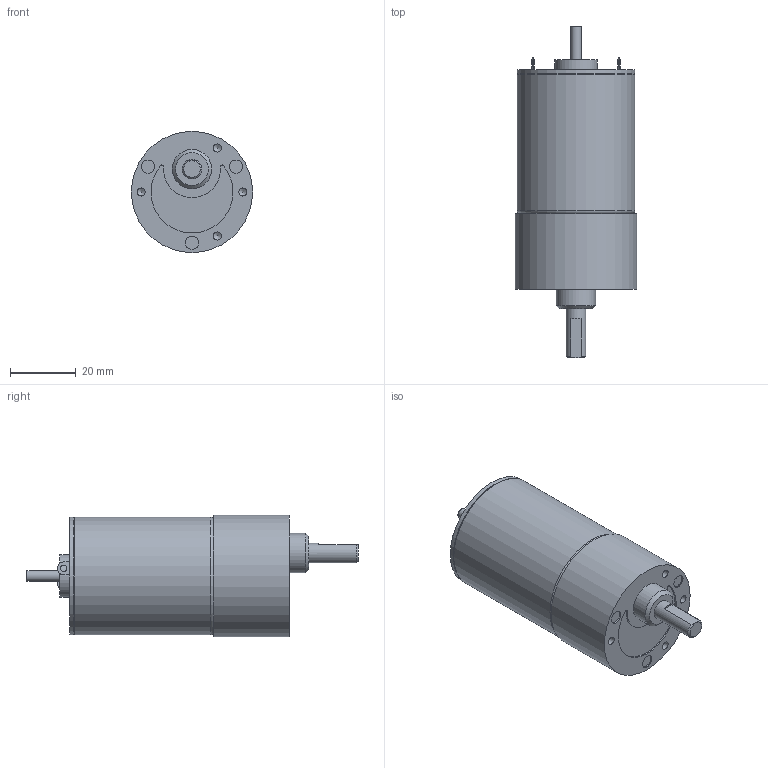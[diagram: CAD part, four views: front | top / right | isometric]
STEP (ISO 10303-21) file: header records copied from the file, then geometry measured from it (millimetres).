
FILE_DESCRIPTION((''),'2;1');
FILE_NAME('C:\Documents and Settings\SSEGAWA\デスクトップ\TP-3644L-KG-3.STP','2013-07-26T18:36:38',('SSEGAWA'),(''),'Autodesk Inventor 2010','Autodesk Inventor 2010','');
FILE_SCHEMA(('CONFIG_CONTROL_DESIGN'));
Length unit declared in the file: millimetre
Products named in the file (1): tp_3644l_kg_3_Shrinkwrap_1
Bounding box: 37 x 101.3 x 37 mm (x, y, z)
Volume: 70753.8 mm3; surface area: 11050.8 mm2
Topology: 1 solids, 4 shells, 67 faces, 141 edges, 94 vertices
Faces by surface type: plane 28, cylinder 19, bspline 16, torus 2, cone 2
Full cylindrical faces by diameter (mm): 3 x1, 3.175 x1, 3.5 x1, 4 x3, 6 x1, 12 x1, 13 x1, 35.6 x1, 36 x2, 37 x1
Entity records: 1793 total; most frequent: CARTESIAN_POINT 509, DIRECTION 253, ORIENTED_EDGE 180, EDGE_LOOP 115, AXIS2_PLACEMENT_3D 113, EDGE_CURVE 90, VERTEX_POINT 75, STYLED_ITEM 68
